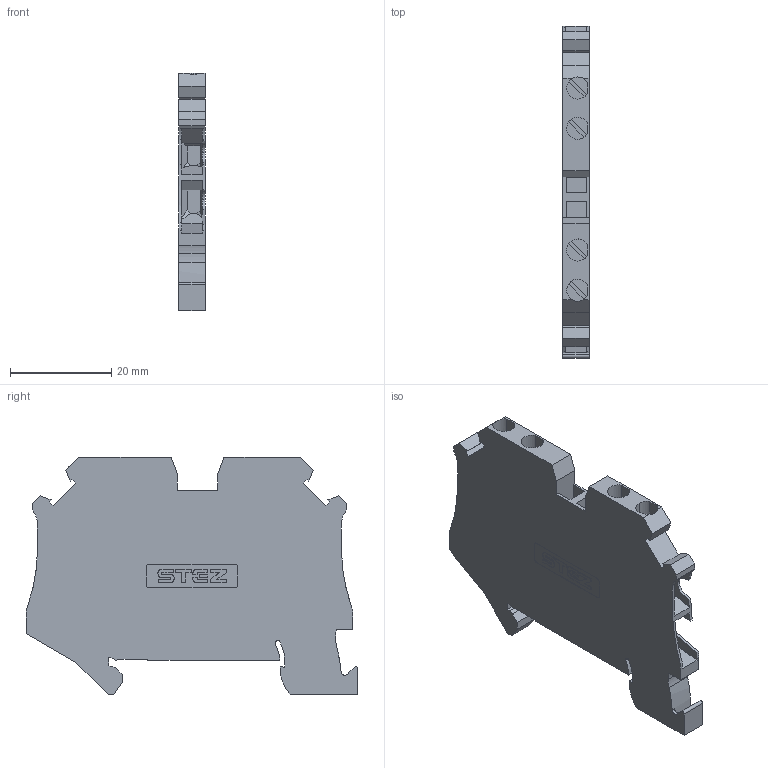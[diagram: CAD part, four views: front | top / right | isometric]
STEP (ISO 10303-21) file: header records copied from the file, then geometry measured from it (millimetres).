
FILE_DESCRIPTION(('TFLEX Exchange Step'),'2;1');
FILE_NAME('11000080_КНВ_2,5-4.stp', '2024-04-27T13:27:52+03:00',('apanin'),('Unknown organisation'),'TFLEX Exchange 2023.2','T-FLEX CAD','Unknown authorisation');
FILE_SCHEMA( ('AUTOMOTIVE_DESIGN { 1 0 10303 214 1 1 1 1 }') );
Length unit declared in the file: millimetre
Products named in the file (1): Тело_1 - UT_25_quattro_select.1:1
Bounding box: 5.15 x 65.4 x 46.85 mm (x, y, z)
Volume: 10091 mm3; surface area: 7722.2 mm2
Topology: 1 solids, 1 shells, 432 faces, 1251 edges, 830 vertices
Faces by surface type: plane 229, cylinder 203
Entity records: 14407 total; most frequent: DIRECTION 2548, CARTESIAN_POINT 2518, ORIENTED_EDGE 2502, EDGE_CURVE 1251, AXIS2_PLACEMENT_3D 866, VERTEX_POINT 830, VECTOR 816, LINE 816
